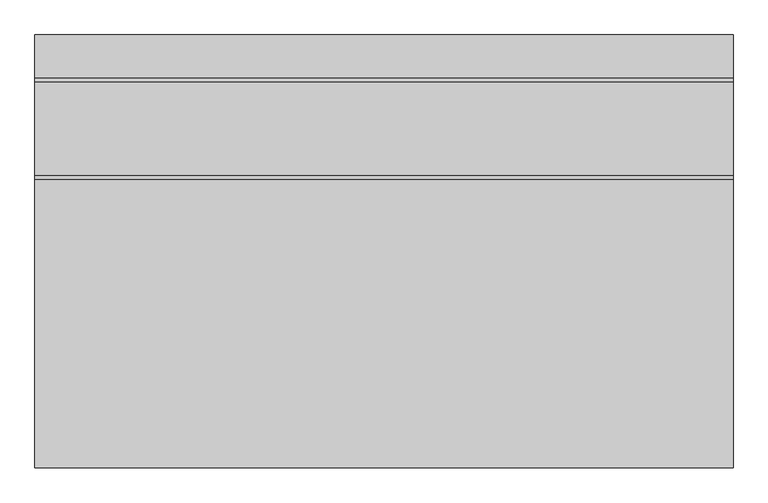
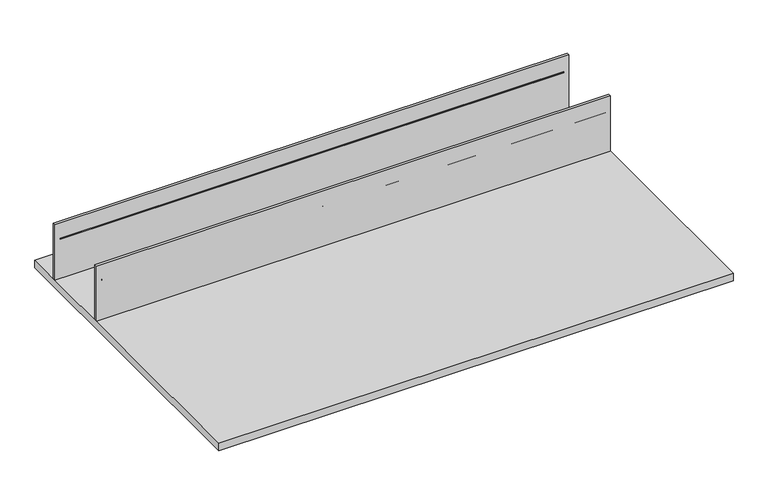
"""IFC4 building model written with IfcOpenShell, lengths in millimetres: proxy geometry, DATUM^OFFICE 4_WALL HUNG-PARTS SOLID."""

import ifcopenshell
import ifcopenshell.guid

model = None  # the IFC model being written
_history = None  # IfcOwnerHistory: only IFC2X3 demands one
_inside = {}  # id of a spatial element -> (the spatial element, [elements in it])
_under = {}  # id of a project, library or spatial element -> (it, [spatial elements below it])
_declared = {}  # id of a project -> (the project, [libraries it declares])
_typed = {}  # id of a type object -> (the type object, [elements of that type])
_made_of = {}  # id of a material, layer set ... -> (it, [elements and type objects made of it])


def new_model(schema):
    """Start an empty IFC model of exactly this schema.

    Asked for "IFC4X3", IfcOpenShell would pick the latest addendum, in which some entities
    have other attributes; the version numbers below select the first issue.
    IFC2X3 requires an IfcOwnerHistory on every rooted entity: one is made here for all.
    """
    global model, _history
    if schema == "IFC4X3":
        model = ifcopenshell.file(schema_version=(4, 3, 0, 0))
    else:
        model = ifcopenshell.file(schema=schema)
    _inside.clear()
    _under.clear()
    _declared.clear()
    _typed.clear()
    _made_of.clear()
    _history = None
    if model.schema == "IFC2X3":
        org = make("IfcOrganization", Name="unknown")
        user = make(
            "IfcPersonAndOrganization",
            ThePerson=make("IfcPerson", FamilyName="unknown"),
            TheOrganization=org,
        )
        app = make(
            "IfcApplication",
            ApplicationDeveloper=org,
            Version="unknown",
            ApplicationFullName="unknown",
            ApplicationIdentifier="unknown",
        )
        _history = make(
            "IfcOwnerHistory",
            OwningUser=user,
            OwningApplication=app,
            ChangeAction="ADDED",
            CreationDate=0,
        )
    return model


def make(cls, **values):
    """One entity of the class cls with the attributes given. An attribute that is None is left unset."""
    return model.create_entity(
        cls, **{name: value for name, value in values.items() if value is not None}
    )


def rooted(cls, **values):
    """An entity with a GlobalId (a new one), such as an element, a storey or a relation."""
    return make(cls, GlobalId=ifcopenshell.guid.new(), OwnerHistory=_history, **values)


def si_unit(unit_type, name, prefix=None):
    """IfcSIUnit, for example si_unit("LENGTHUNIT", "METRE", prefix="MILLI")."""
    return make("IfcSIUnit", UnitType=unit_type, Prefix=prefix, Name=name)


def assignment(units):
    """IfcUnitAssignment: the units of a project."""
    return None if units is None else make("IfcUnitAssignment", Units=units)


def point(xyz):
    """IfcCartesianPoint."""
    return None if xyz is None else make("IfcCartesianPoint", Coordinates=xyz)


def direction(xyz):
    """IfcDirection."""
    return None if xyz is None else make("IfcDirection", DirectionRatios=xyz)


def frame(location, z_axis=None, x_axis=None):
    """IfcAxis2Placement3D, a coordinate frame: its origin and axes. An axis left out is left unset."""
    return make(
        "IfcAxis2Placement3D",
        Location=point(location),
        Axis=direction(z_axis),
        RefDirection=direction(x_axis),
    )


def origin():
    """The frame at (0, 0, 0) with its axes left unset."""
    return frame((0.0, 0.0, 0.0))


def place(relative_to, where):
    """IfcLocalPlacement: puts the frame where relative to a parent placement (None: the world)."""
    return make(
        "IfcLocalPlacement", PlacementRelTo=relative_to, RelativePlacement=where
    )


def context(
    kind, dimensions, precision=None, world=None, true_north=None, identifier=None
):
    """IfcGeometricRepresentationContext, for example the 3D "Model" context."""
    return make(
        "IfcGeometricRepresentationContext",
        ContextIdentifier=identifier,
        ContextType=kind,
        CoordinateSpaceDimension=dimensions,
        Precision=precision,
        WorldCoordinateSystem=world,
        TrueNorth=true_north,
    )


def project(units=None, contexts=None):
    """IfcProject with its units and contexts."""
    return rooted(
        "IfcProject",
        Name="project",
        RepresentationContexts=contexts,
        UnitsInContext=assignment(units),
    )


def spatial(cls, under=None, at=None, **own):
    """A site, building, storey or space (cls), placed at a placement, below another one or the project."""
    s = rooted(cls, ObjectPlacement=at, **own)
    if under is not None:
        _under.setdefault(under.id(), (under, []))[1].append(s)
    return s


def polyline(points):
    """IfcPolyline through the points."""
    return make("IfcPolyline", Points=[point(p) for p in points])


def outline(outer, holes=None, kind="AREA"):
    """IfcArbitraryClosedProfileDef: a profile drawn as a closed curve; with holes, ...WithVoids."""
    if holes is None:
        return make("IfcArbitraryClosedProfileDef", ProfileType=kind, OuterCurve=outer)
    return make(
        "IfcArbitraryProfileDefWithVoids",
        ProfileType=kind,
        OuterCurve=outer,
        InnerCurves=holes,
    )


def extrude(swept, where, along, depth):
    """IfcExtrudedAreaSolid: the profile swept, set in the frame where, extruded along a direction by depth."""
    return make(
        "IfcExtrudedAreaSolid",
        SweptArea=swept,
        Position=where,
        ExtrudedDirection=direction(along),
        Depth=depth,
    )


def shape(context_of_items, identifier, shape_type, items):
    """IfcShapeRepresentation: the items that make up one representation, for example the "Body"."""
    return make(
        "IfcShapeRepresentation",
        ContextOfItems=context_of_items,
        RepresentationIdentifier=identifier,
        RepresentationType=shape_type,
        Items=items,
    )


def source(mapping_origin, context_of_items, identifier, shape_type, items):
    """IfcRepresentationMap: a shape defined once, which mapped items show again and again."""
    return make(
        "IfcRepresentationMap",
        MappingOrigin=mapping_origin,
        MappedRepresentation=shape(context_of_items, identifier, shape_type, items),
    )


def transform(
    local_origin,
    x_axis=None,
    y_axis=None,
    z_axis=None,
    scale=None,
    scale2=None,
    scale3=None,
    uniform=True,
):
    """IfcCartesianTransformationOperator3D, or its non-uniform kind. x_axis, y_axis, z_axis: its Axis1, 2, 3."""
    if uniform:
        return make(
            "IfcCartesianTransformationOperator3D",
            Axis1=direction(x_axis),
            Axis2=direction(y_axis),
            LocalOrigin=point(local_origin),
            Scale=scale,
            Axis3=direction(z_axis),
        )
    return make(
        "IfcCartesianTransformationOperator3DnonUniform",
        Axis1=direction(x_axis),
        Axis2=direction(y_axis),
        LocalOrigin=point(local_origin),
        Scale=scale,
        Axis3=direction(z_axis),
        Scale2=scale2,
        Scale3=scale3,
    )


def mapped(mapping_source, mapping_target):
    """IfcMappedItem: shows the shape of a source again, moved by a transform."""
    return make(
        "IfcMappedItem", MappingSource=mapping_source, MappingTarget=mapping_target
    )


def made_of(thing, what):
    """Note that an element or type object is made of a material, layer set ...; save() writes the relation."""
    if what is not None:
        _made_of.setdefault(what.id(), (what, []))[1].append(thing)
    return thing


def element(
    cls,
    number,
    at=None,
    inside=None,
    cuts=None,
    type_object=None,
    material=None,
    context=None,
    identifier="Body",
    shape_type=None,
    held_by="IfcProductDefinitionShape",
    body=None,
    shapes=None,
    **own,
):
    """One element of the class cls, such as IfcWall. Its Tag is "e" and its number.

    at: its placement. inside: the storey or other place that contains it. cuts: it is an
    opening in that element (IfcRelVoidsElement). A single representation is given by context,
    identifier, shape_type and body (its items); several are given by shapes. held_by: the class
    of the entity that holds the representations. save() writes the other relations.
    """
    e = rooted(cls, Tag="e%d" % number, ObjectPlacement=at, **own)
    if body is not None:
        shapes = [shape(context, identifier, shape_type, body)]
    if shapes is not None:
        e.Representation = make(held_by, Representations=shapes)
    if inside is not None:
        _inside.setdefault(inside.id(), (inside, []))[1].append(e)
    if cuts is not None:
        rooted(
            "IfcRelVoidsElement", RelatingBuildingElement=cuts, RelatedOpeningElement=e
        )
    if type_object is not None:
        _typed.setdefault(type_object.id(), (type_object, []))[1].append(e)
    return made_of(e, material)


def aggregate(whole, parts):
    """IfcRelAggregates: a whole, such as a stair, and the parts it consists of."""
    return rooted("IfcRelAggregates", RelatingObject=whole, RelatedObjects=parts)


def save(model, path):
    """Write the relations noted so far, then the file.

    IfcRelAggregates (storeys below a building ...), IfcRelContainedInSpatialStructure (elements
    in a storey), IfcRelDefinesByType, IfcRelAssociatesMaterial and IfcRelDeclares: one each for
    every whole, place, type object, material and project.
    """
    for whole, parts in _under.values():
        aggregate(whole, parts)
    for where, things in _inside.values():
        rooted(
            "IfcRelContainedInSpatialStructure",
            RelatedElements=things,
            RelatingStructure=where,
        )
    for kind, things in _typed.values():
        rooted("IfcRelDefinesByType", RelatedObjects=things, RelatingType=kind)
    for what, things in _made_of.values():
        rooted("IfcRelAssociatesMaterial", RelatedObjects=things, RelatingMaterial=what)
    for by, libraries in _declared.values():
        rooted("IfcRelDeclares", RelatingContext=by, RelatedDefinitions=libraries)
    model.write(path)


def generic_models_54f86054(model_context):
    return source(origin(), model_context, "Body", "SweptSolid", [
        extrude(outline(polyline([(2457.45, 0.0), (0.0, 0.0), (0.0, 1524.0), (2457.45, 1524.0), (2457.45, 0.0)])), frame((0.0, 0.0, -19.05), z_axis=(0.0, 0.0, 1.0), x_axis=(1.0, 0.0, 0.0)), (0.0, 0.0, 1.0), 38.1),
        extrude(outline(polyline([(2457.45, 1016.0), (0.0, 1016.0), (0.0, 1028.7), (2457.45, 1028.7), (2457.45, 1016.0)])), frame((0.0, 0.0, 19.05), z_axis=(0.0, 0.0, 1.0), x_axis=(1.0, 0.0, 0.0)), (0.0, 0.0, 1.0), 279.4),
        extrude(outline(polyline([(25.4, 1368.425), (2432.05, 1368.425), (2432.05, 1358.9), (25.4, 1358.9), (25.4, 1368.425)])), frame((0.0, 0.0, 217.17), z_axis=(0.0, 0.0, 1.0), x_axis=(1.0, 0.0, 0.0)), (0.0, 0.0, 1.0), 5.08),
        extrude(outline(polyline([(25.4, 1025.525), (2432.05, 1025.525), (2432.05, 1016.0), (25.4, 1016.0), (25.4, 1025.525)])), frame((0.0, 0.0, 217.17), z_axis=(0.0, 0.0, 1.0), x_axis=(1.0, 0.0, 0.0)), (0.0, 0.0, 1.0), 5.08),
        extrude(outline(polyline([(0.0, 1371.6), (2457.45, 1371.6), (2457.45, 1358.9), (0.0, 1358.9), (0.0, 1371.6)])), frame((0.0, 0.0, 19.05), z_axis=(0.0, 0.0, 1.0), x_axis=(1.0, 0.0, 0.0)), (0.0, 0.0, 1.0), 279.4),
    ])


if __name__ == "__main__":
    model = new_model("IFC4")
    model_context = context("Model", 3, world=origin())
    ifc_project = project(units=[si_unit("LENGTHUNIT", "METRE", prefix="MILLI")], contexts=[model_context])
    site = spatial("IfcSite", under=ifc_project)
    building = spatial("IfcBuilding", under=site)
    placement = place(None, origin())
    generic_models_shape = generic_models_54f86054(model_context)
    element("IfcBuildingElementProxy", 1, Name="DATUM^OFFICE 4_WALL HUNG-PARTS SOLID", ObjectType="DATUM^OFFICE 4_WALL HUNG-PARTS SOLID", at=placement, inside=building, context=model_context, shape_type="MappedRepresentation", body=[
        mapped(generic_models_shape, transform((0.0, 0.0, 0.0), x_axis=(1.0, 0.0, 0.0), y_axis=(0.0, 1.0, 0.0), z_axis=(0.0, 0.0, 1.0))),
    ])
    save(model, "model.ifc")
